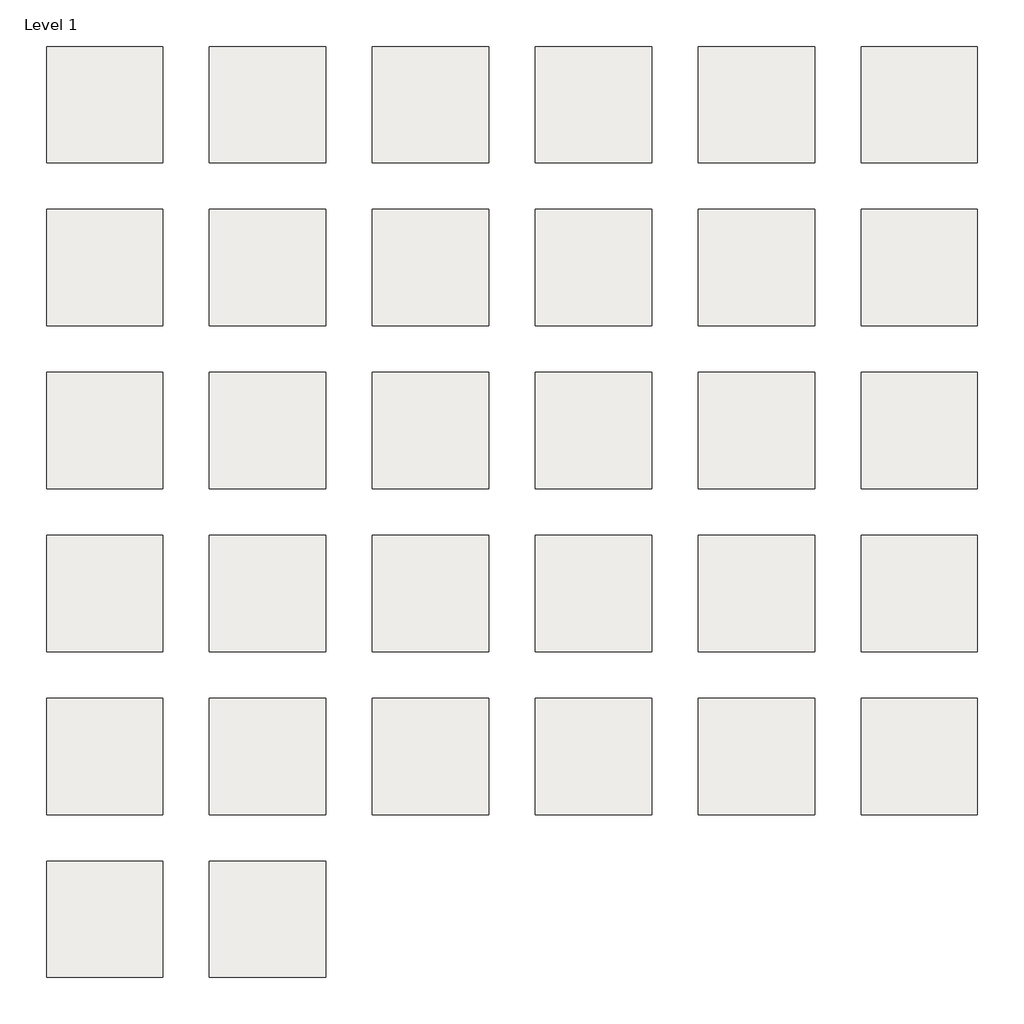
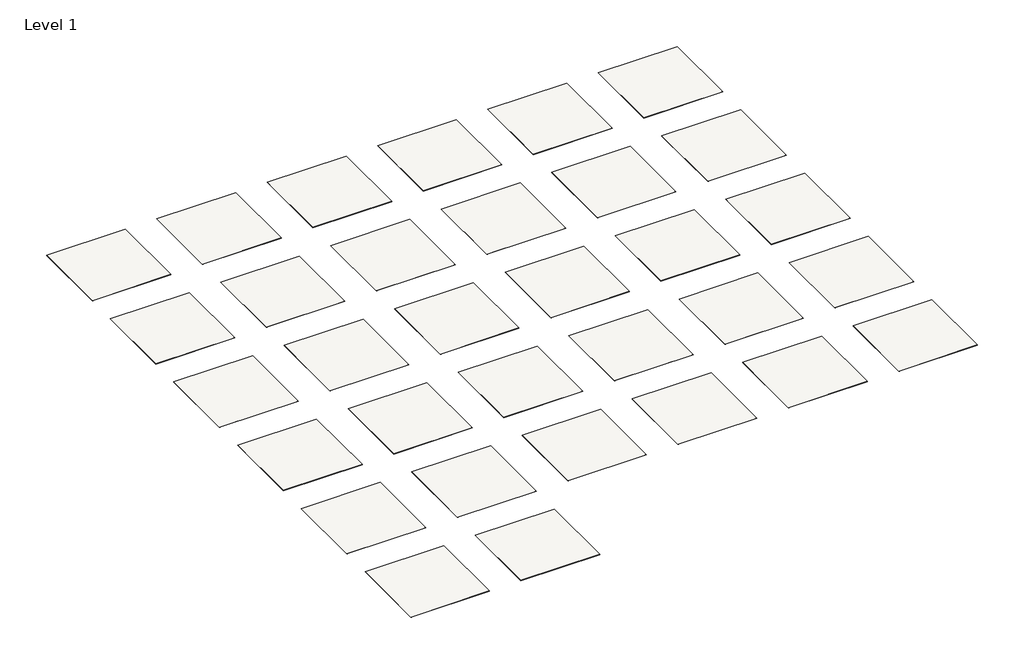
# One storey: 32 slabs.
"""IFC4 building model written with IfcOpenShell, lengths in millimetres."""

from ifc_helpers import new_model, si_unit, frame, origin, place, context, project, spatial, polyline, outline, extrude, element, save

model = new_model("IFC4")

# Units and contexts
model_context = context("Model", 3, world=origin())
ifc_project = project(units=[si_unit("LENGTHUNIT", "METRE", prefix="MILLI")], contexts=[model_context])

# Site, building, storey
site = spatial("IfcSite", under=ifc_project)
building = spatial("IfcBuilding", under=site)
storey = spatial("IfcBuildingStorey", under=building, Name="Level 1", Elevation=0.0)

# Slabs
placement = place(None, origin())
element("IfcSlab", 1, ObjectType="AHF Contract®_LVT - Dry Back_ST161_Sun Luster", at=placement, inside=storey, context=model_context, shape_type="SweptSolid", body=[
    extrude(outline(polyline([(1219.2, 6400.8), (1219.2, 4876.8), (-304.8, 4876.8), (-304.8, 6400.8), (1219.2, 6400.8)])), frame((0.0, 0.0, -3.175), z_axis=(0.0, 0.0, 1.0), x_axis=(1.0, 0.0, 0.0)), (0.0, 0.0, 1.0), 3.175),
])
element("IfcSlab", 2, ObjectType="AHF Contract®_LVT - Dry Back_ST162_Sunset Touch", at=placement, inside=storey, context=model_context, shape_type="SweptSolid", body=[
    extrude(outline(polyline([(3352.8, 6400.8), (3352.8, 4876.8), (1828.8, 4876.8), (1828.8, 6400.8), (3352.8, 6400.8)])), frame((0.0, 0.0, -3.175), z_axis=(0.0, 0.0, 1.0), x_axis=(1.0, 0.0, 0.0)), (0.0, 0.0, 1.0), 3.175),
])
element("IfcSlab", 3, ObjectType="AHF Contract®_LVT - Dry Back_ST163_Rustled Brown", at=placement, inside=storey, context=model_context, shape_type="SweptSolid", body=[
    extrude(outline(polyline([(5486.4, 6400.8), (5486.4, 4876.8), (3962.4, 4876.8), (3962.4, 6400.8), (5486.4, 6400.8)])), frame((0.0, 0.0, -3.175), z_axis=(0.0, 0.0, 1.0), x_axis=(1.0, 0.0, 0.0)), (0.0, 0.0, 1.0), 3.175),
])
element("IfcSlab", 4, ObjectType="AHF Contract®_LVT - Dry Back_ST165_Coppered Glow", at=placement, inside=storey, context=model_context, shape_type="SweptSolid", body=[
    extrude(outline(polyline([(7620.0, 6400.8), (7620.0, 4876.8), (6096.0, 4876.8), (6096.0, 6400.8), (7620.0, 6400.8)])), frame((0.0, 0.0, -3.175), z_axis=(0.0, 0.0, 1.0), x_axis=(1.0, 0.0, 0.0)), (0.0, 0.0, 1.0), 3.175),
])
element("IfcSlab", 5, ObjectType="AHF Contract®_LVT - Dry Back_ST166_Acorn Hat", at=placement, inside=storey, context=model_context, shape_type="SweptSolid", body=[
    extrude(outline(polyline([(9753.6, 6400.8), (9753.6, 4876.8), (8229.6, 4876.8), (8229.6, 6400.8), (9753.6, 6400.8)])), frame((0.0, 0.0, -3.175), z_axis=(0.0, 0.0, 1.0), x_axis=(1.0, 0.0, 0.0)), (0.0, 0.0, 1.0), 3.175),
])
element("IfcSlab", 6, ObjectType="AHF Contract®_LVT - Dry Back_ST170_Golden Hour", at=placement, inside=storey, context=model_context, shape_type="SweptSolid", body=[
    extrude(outline(polyline([(11887.2, 6400.8), (11887.2, 4876.8), (10363.2, 4876.8), (10363.2, 6400.8), (11887.2, 6400.8)])), frame((0.0, 0.0, -3.175), z_axis=(0.0, 0.0, 1.0), x_axis=(1.0, 0.0, 0.0)), (0.0, 0.0, 1.0), 3.175),
])
element("IfcSlab", 7, ObjectType="AHF Contract®_LVT - Dry Back_ST171_Tide Washed", at=placement, inside=storey, context=model_context, shape_type="SweptSolid", body=[
    extrude(outline(polyline([(1219.2, 4267.2), (1219.2, 2743.2), (-304.8, 2743.2), (-304.8, 4267.2), (1219.2, 4267.2)])), frame((0.0, 0.0, -3.175), z_axis=(0.0, 0.0, 1.0), x_axis=(1.0, 0.0, 0.0)), (0.0, 0.0, 1.0), 3.175),
])
element("IfcSlab", 8, ObjectType="AHF Contract®_LVT - Dry Back_ST172_Sun Faded", at=placement, inside=storey, context=model_context, shape_type="SweptSolid", body=[
    extrude(outline(polyline([(3352.8, 4267.2), (3352.8, 2743.2), (1828.8, 2743.2), (1828.8, 4267.2), (3352.8, 4267.2)])), frame((0.0, 0.0, -3.175), z_axis=(0.0, 0.0, 1.0), x_axis=(1.0, 0.0, 0.0)), (0.0, 0.0, 1.0), 3.175),
])
element("IfcSlab", 9, ObjectType="AHF Contract®_LVT - Dry Back_ST174_Nutshell", at=placement, inside=storey, context=model_context, shape_type="SweptSolid", body=[
    extrude(outline(polyline([(5486.4, 4267.2), (5486.4, 2743.2), (3962.4, 2743.2), (3962.4, 4267.2), (5486.4, 4267.2)])), frame((0.0, 0.0, -3.175), z_axis=(0.0, 0.0, 1.0), x_axis=(1.0, 0.0, 0.0)), (0.0, 0.0, 1.0), 3.175),
])
element("IfcSlab", 10, ObjectType="AHF Contract®_LVT - Dry Back_ST175_Redwood Bark", at=placement, inside=storey, context=model_context, shape_type="SweptSolid", body=[
    extrude(outline(polyline([(7620.0, 4267.2), (7620.0, 2743.2), (6096.0, 2743.2), (6096.0, 4267.2), (7620.0, 4267.2)])), frame((0.0, 0.0, -3.175), z_axis=(0.0, 0.0, 1.0), x_axis=(1.0, 0.0, 0.0)), (0.0, 0.0, 1.0), 3.175),
])
element("IfcSlab", 11, ObjectType="AHF Contract®_LVT - Dry Back_ST180_Feathered Gray", at=placement, inside=storey, context=model_context, shape_type="SweptSolid", body=[
    extrude(outline(polyline([(9753.6, 4267.2), (9753.6, 2743.2), (8229.6, 2743.2), (8229.6, 4267.2), (9753.6, 4267.2)])), frame((0.0, 0.0, -3.175), z_axis=(0.0, 0.0, 1.0), x_axis=(1.0, 0.0, 0.0)), (0.0, 0.0, 1.0), 3.175),
])
element("IfcSlab", 12, ObjectType="AHF Contract®_LVT - Dry Back_ST181_Bird Trill", at=placement, inside=storey, context=model_context, shape_type="SweptSolid", body=[
    extrude(outline(polyline([(11887.2, 4267.2), (11887.2, 2743.2), (10363.2, 2743.2), (10363.2, 4267.2), (11887.2, 4267.2)])), frame((0.0, 0.0, -3.175), z_axis=(0.0, 0.0, 1.0), x_axis=(1.0, 0.0, 0.0)), (0.0, 0.0, 1.0), 3.175),
])
element("IfcSlab", 13, ObjectType="AHF Contract®_LVT - Dry Back_ST182_Spikelet", at=placement, inside=storey, context=model_context, shape_type="SweptSolid", body=[
    extrude(outline(polyline([(1219.2, 2133.6), (1219.2, 609.6), (-304.8, 609.6), (-304.8, 2133.6), (1219.2, 2133.6)])), frame((0.0, 0.0, -3.175), z_axis=(0.0, 0.0, 1.0), x_axis=(1.0, 0.0, 0.0)), (0.0, 0.0, 1.0), 3.175),
])
element("IfcSlab", 14, ObjectType="AHF Contract®_LVT - Dry Back_ST183_Gingery Tan", at=placement, inside=storey, context=model_context, shape_type="SweptSolid", body=[
    extrude(outline(polyline([(3352.8, 2133.6), (3352.8, 609.6), (1828.8, 609.6), (1828.8, 2133.6), (3352.8, 2133.6)])), frame((0.0, 0.0, -3.175), z_axis=(0.0, 0.0, 1.0), x_axis=(1.0, 0.0, 0.0)), (0.0, 0.0, 1.0), 3.175),
])
element("IfcSlab", 15, ObjectType="AHF Contract®_LVT - Dry Back_ST185_Forest Trail", at=placement, inside=storey, context=model_context, shape_type="SweptSolid", body=[
    extrude(outline(polyline([(5486.4, 2133.6), (5486.4, 609.6), (3962.4, 609.6), (3962.4, 2133.6), (5486.4, 2133.6)])), frame((0.0, 0.0, -3.175), z_axis=(0.0, 0.0, 1.0), x_axis=(1.0, 0.0, 0.0)), (0.0, 0.0, 1.0), 3.175),
])
element("IfcSlab", 16, ObjectType="AHF Contract®_LVT - Dry Back_ST192_Quiet Moment", at=placement, inside=storey, context=model_context, shape_type="SweptSolid", body=[
    extrude(outline(polyline([(7620.0, 2133.6), (7620.0, 609.6), (6096.0, 609.6), (6096.0, 2133.6), (7620.0, 2133.6)])), frame((0.0, 0.0, -2.4804688), z_axis=(0.0, 0.0, 1.0), x_axis=(1.0, 0.0, 0.0)), (0.0, 0.0, 1.0), 2.4804688),
])
element("IfcSlab", 17, ObjectType="AHF Contract®_LVT - Dry Back_ST193_Silent Twilight", at=placement, inside=storey, context=model_context, shape_type="SweptSolid", body=[
    extrude(outline(polyline([(9753.6, 2133.6), (9753.6, 609.6), (8229.6, 609.6), (8229.6, 2133.6), (9753.6, 2133.6)])), frame((0.0, 0.0, -3.175), z_axis=(0.0, 0.0, 1.0), x_axis=(1.0, 0.0, 0.0)), (0.0, 0.0, 1.0), 3.175),
])
element("IfcSlab", 18, ObjectType="AHF Contract®_LVT - Dry Back_ST194_Late Promenade", at=placement, inside=storey, context=model_context, shape_type="SweptSolid", body=[
    extrude(outline(polyline([(11887.2, 2133.6), (11887.2, 609.6), (10363.2, 609.6), (10363.2, 2133.6), (11887.2, 2133.6)])), frame((0.0, 0.0, -3.175), z_axis=(0.0, 0.0, 1.0), x_axis=(1.0, 0.0, 0.0)), (0.0, 0.0, 1.0), 3.175),
])
element("IfcSlab", 19, ObjectType="AHF Contract®_LVT - Dry Back_ST822_White Clay", at=placement, inside=storey, context=model_context, shape_type="SweptSolid", body=[
    extrude(outline(polyline([(1219.2, 0.0), (1219.2, -1524.0), (-304.8, -1524.0), (-304.8, 0.0), (1219.2, 0.0)])), frame((0.0, 0.0, -3.175), z_axis=(0.0, 0.0, 1.0), x_axis=(1.0, 0.0, 0.0)), (0.0, 0.0, 1.0), 3.175),
])
element("IfcSlab", 20, ObjectType="AHF Contract®_LVT - Dry Back_ST770_Linen Whisper", at=placement, inside=storey, context=model_context, shape_type="SweptSolid", body=[
    extrude(outline(polyline([(3352.8, 0.0), (3352.8, -1524.0), (1828.8, -1524.0), (1828.8, 0.0), (3352.8, 0.0)])), frame((0.0, 0.0, -3.175), z_axis=(0.0, 0.0, 1.0), x_axis=(1.0, 0.0, 0.0)), (0.0, 0.0, 1.0), 3.175),
])
element("IfcSlab", 21, ObjectType="AHF Contract®_LVT - Dry Back_ST771_Rainfall Gray", at=placement, inside=storey, context=model_context, shape_type="SweptSolid", body=[
    extrude(outline(polyline([(5486.4, 0.0), (5486.4, -1524.0), (3962.4, -1524.0), (3962.4, 0.0), (5486.4, 0.0)])), frame((0.0, 0.0, -3.175), z_axis=(0.0, 0.0, 1.0), x_axis=(1.0, 0.0, 0.0)), (0.0, 0.0, 1.0), 3.175),
])
element("IfcSlab", 22, ObjectType="AHF Contract®_LVT - Dry Back_ST821_Cloud Gray", at=placement, inside=storey, context=model_context, shape_type="SweptSolid", body=[
    extrude(outline(polyline([(7620.0, 0.0), (7620.0, -1524.0), (6096.0, -1524.0), (6096.0, 0.0), (7620.0, 0.0)])), frame((0.0, 0.0, -3.175), z_axis=(0.0, 0.0, 1.0), x_axis=(1.0, 0.0, 0.0)), (0.0, 0.0, 1.0), 3.175),
])
element("IfcSlab", 23, ObjectType="AHF Contract®_LVT - Dry Back_ST791_Lyrical Beige", at=placement, inside=storey, context=model_context, shape_type="SweptSolid", body=[
    extrude(outline(polyline([(9753.6, 0.0), (9753.6, -1524.0), (8229.6, -1524.0), (8229.6, 0.0), (9753.6, 0.0)])), frame((0.0, 0.0, -3.175), z_axis=(0.0, 0.0, 1.0), x_axis=(1.0, 0.0, 0.0)), (0.0, 0.0, 1.0), 3.175),
])
element("IfcSlab", 24, ObjectType="AHF Contract®_LVT - Dry Back_ST793_Atmosphere Tan", at=placement, inside=storey, context=model_context, shape_type="SweptSolid", body=[
    extrude(outline(polyline([(11887.2, 0.0), (11887.2, -1524.0), (10363.2, -1524.0), (10363.2, 0.0), (11887.2, 0.0)])), frame((0.0, 0.0, -3.175), z_axis=(0.0, 0.0, 1.0), x_axis=(1.0, 0.0, 0.0)), (0.0, 0.0, 1.0), 3.175),
])
element("IfcSlab", 25, ObjectType="AHF Contract®_LVT - Loose Lay_L7161_Sun Luster", at=placement, inside=storey, context=model_context, shape_type="SweptSolid", body=[
    extrude(outline(polyline([(1219.2, -2133.6), (1219.2, -3657.6), (-304.8, -3657.6), (-304.8, -2133.6), (1219.2, -2133.6)])), frame((0.0, 0.0, -3.175), z_axis=(0.0, 0.0, 1.0), x_axis=(1.0, 0.0, 0.0)), (0.0, 0.0, 1.0), 3.175),
])
element("IfcSlab", 26, ObjectType="AHF Contract®_LVT - Loose Lay_L7162_Sunset Touch", at=placement, inside=storey, context=model_context, shape_type="SweptSolid", body=[
    extrude(outline(polyline([(3352.8, -2133.6), (3352.8, -3657.6), (1828.8, -3657.6), (1828.8, -2133.6), (3352.8, -2133.6)])), frame((0.0, 0.0, -3.175), z_axis=(0.0, 0.0, 1.0), x_axis=(1.0, 0.0, 0.0)), (0.0, 0.0, 1.0), 3.175),
])
element("IfcSlab", 27, ObjectType="AHF Contract®_LVT - Loose Lay_L7163_Rustled Brown", at=placement, inside=storey, context=model_context, shape_type="SweptSolid", body=[
    extrude(outline(polyline([(5486.4, -2133.6), (5486.4, -3657.6), (3962.4, -3657.6), (3962.4, -2133.6), (5486.4, -2133.6)])), frame((0.0, 0.0, -3.175), z_axis=(0.0, 0.0, 1.0), x_axis=(1.0, 0.0, 0.0)), (0.0, 0.0, 1.0), 3.175),
])
element("IfcSlab", 28, ObjectType="AHF Contract®_LVT - Loose Lay_L7165_Coppered Glow", at=placement, inside=storey, context=model_context, shape_type="SweptSolid", body=[
    extrude(outline(polyline([(7620.0, -2133.6), (7620.0, -3657.6), (6096.0, -3657.6), (6096.0, -2133.6), (7620.0, -2133.6)])), frame((0.0, 0.0, -3.175), z_axis=(0.0, 0.0, 1.0), x_axis=(1.0, 0.0, 0.0)), (0.0, 0.0, 1.0), 3.175),
])
element("IfcSlab", 29, ObjectType="AHF Contract®_LVT - Loose Lay_L7166_Acorn Hat", at=placement, inside=storey, context=model_context, shape_type="SweptSolid", body=[
    extrude(outline(polyline([(9753.6, -2133.6), (9753.6, -3657.6), (8229.6, -3657.6), (8229.6, -2133.6), (9753.6, -2133.6)])), frame((0.0, 0.0, -3.175), z_axis=(0.0, 0.0, 1.0), x_axis=(1.0, 0.0, 0.0)), (0.0, 0.0, 1.0), 3.175),
])
element("IfcSlab", 30, ObjectType="AHF Contract®_LVT - Loose Lay_L7192_Quiet Moment", at=placement, inside=storey, context=model_context, shape_type="SweptSolid", body=[
    extrude(outline(polyline([(11887.2, -2133.6), (11887.2, -3657.6), (10363.2, -3657.6), (10363.2, -2133.6), (11887.2, -2133.6)])), frame((0.0, 0.0, -4.4648438), z_axis=(0.0, 0.0, 1.0), x_axis=(1.0, 0.0, 0.0)), (0.0, 0.0, 1.0), 4.4648438),
])
element("IfcSlab", 31, ObjectType="AHF Contract®_LVT - Loose Lay_L7193_Silent Twilight", at=placement, inside=storey, context=model_context, shape_type="SweptSolid", body=[
    extrude(outline(polyline([(1219.2, -4267.2), (1219.2, -5791.2), (-304.8, -5791.2), (-304.8, -4267.2), (1219.2, -4267.2)])), frame((0.0, 0.0, -3.175), z_axis=(0.0, 0.0, 1.0), x_axis=(1.0, 0.0, 0.0)), (0.0, 0.0, 1.0), 3.175),
])
element("IfcSlab", 32, ObjectType="AHF Contract®_LVT - Loose Lay_L7194_Late Promenade", at=placement, inside=storey, context=model_context, shape_type="SweptSolid", body=[
    extrude(outline(polyline([(3352.8, -4267.2), (3352.8, -5791.2), (1828.8, -5791.2), (1828.8, -4267.2), (3352.8, -4267.2)])), frame((0.0, 0.0, -3.175), z_axis=(0.0, 0.0, 1.0), x_axis=(1.0, 0.0, 0.0)), (0.0, 0.0, 1.0), 3.175),
])

save(model, "model.ifc")
